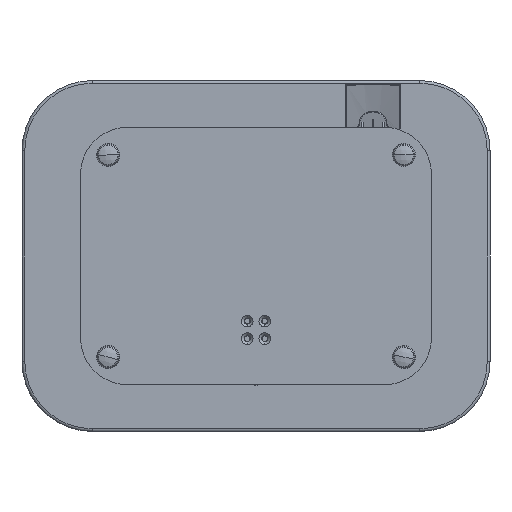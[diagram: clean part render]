
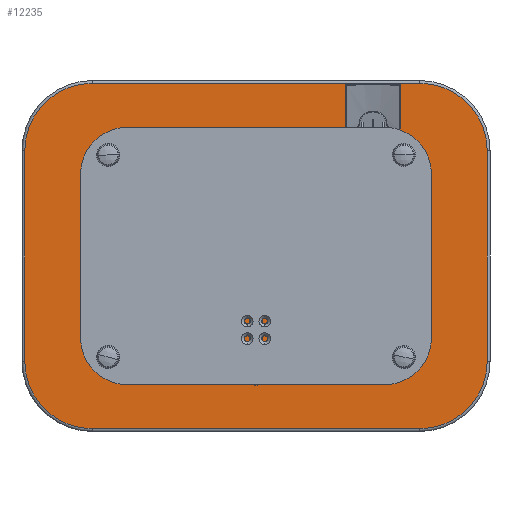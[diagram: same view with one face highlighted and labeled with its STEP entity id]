
A CAD part, front view. The second image highlights one B-rep face of the part: STEP entity #12235.
In plain terms, the highlighted planar face has unit normal (0, -1, 0).
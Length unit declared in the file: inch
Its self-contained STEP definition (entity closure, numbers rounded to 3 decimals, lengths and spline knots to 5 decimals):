
#41 = ORIENTED_EDGE ( 'NONE', *, *, #4150, .F. ) ;
#140 = DIRECTION ( 'NONE',  ( 1., 0., 0. ) ) ;
#161 = CARTESIAN_POINT ( 'NONE',  ( 7., 0., -7.38189 ) ) ;
#442 = VECTOR ( 'NONE', #8382, 39.37008 ) ;
#445 = CARTESIAN_POINT ( 'NONE',  ( 7., 0., 7.38189 ) ) ;
#694 = EDGE_CURVE ( 'NONE', #12762, #3987, #5023, .T. ) ;
#1089 = CARTESIAN_POINT ( 'NONE',  ( 7., 0., 4.5 ) ) ;
#1404 = LINE ( 'NONE', #5592, #2672 ) ;
#1485 = CIRCLE ( 'NONE', #9034, 2.88189 ) ;
#2027 = CARTESIAN_POINT ( 'NONE',  ( 7., 0., -7.38189 ) ) ;
#2336 = ORIENTED_EDGE ( 'NONE', *, *, #8761, .F. ) ;
#2396 = AXIS2_PLACEMENT_3D ( 'NONE', #9112, #11259, #4107 ) ;
#2672 = VECTOR ( 'NONE', #5529, 39.37008 ) ;
#2876 = CIRCLE ( 'NONE', #12131, 2.88189 ) ;
#2907 = LINE ( 'NONE', #2027, #9985 ) ;
#2946 = DIRECTION ( 'NONE',  ( 0., 0., 1. ) ) ;
#3125 = ORIENTED_EDGE ( 'NONE', *, *, #694, .F. ) ;
#3310 = DIRECTION ( 'NONE',  ( 0., 0., 1. ) ) ;
#3347 = EDGE_CURVE ( 'NONE', #12984, #7352, #11703, .T. ) ;
#3420 = CARTESIAN_POINT ( 'NONE',  ( -7., 0., 7.38189 ) ) ;
#3429 = EDGE_CURVE ( 'NONE', #4676, #5047, #2876, .T. ) ;
#3515 = ORIENTED_EDGE ( 'NONE', *, *, #5723, .F. ) ;
#3670 = CARTESIAN_POINT ( 'NONE',  ( -9.88189, 0., 4.5 ) ) ;
#3743 = AXIS2_PLACEMENT_3D ( 'NONE', #6830, #6018, #7912 ) ;
#3834 = DIRECTION ( 'NONE',  ( 0., 1., 0. ) ) ;
#3987 = VERTEX_POINT ( 'NONE', #9235 ) ;
#4052 = DIRECTION ( 'NONE',  ( 0., 1., 0. ) ) ;
#4107 = DIRECTION ( 'NONE',  ( 0., 0., -1. ) ) ;
#4150 = EDGE_CURVE ( 'NONE', #5047, #12984, #1404, .T. ) ;
#4188 = VECTOR ( 'NONE', #140, 39.37008 ) ;
#4676 = VERTEX_POINT ( 'NONE', #445 ) ;
#5005 = FACE_OUTER_BOUND ( 'NONE', #10795, .T. ) ;
#5023 = CIRCLE ( 'NONE', #11897, 2.88189 ) ;
#5047 = VERTEX_POINT ( 'NONE', #7560 ) ;
#5202 = PLANE ( 'NONE',  #2396 ) ;
#5529 = DIRECTION ( 'NONE',  ( 0., 0., -1. ) ) ;
#5592 = CARTESIAN_POINT ( 'NONE',  ( 9.88189, 0., 4.5 ) ) ;
#5723 = EDGE_CURVE ( 'NONE', #11214, #10447, #1485, .T. ) ;
#6018 = DIRECTION ( 'NONE',  ( 0., 1., 0. ) ) ;
#6027 = CARTESIAN_POINT ( 'NONE',  ( -9.88189, 0., -4.5 ) ) ;
#6374 = CARTESIAN_POINT ( 'NONE',  ( -9.88189, 0., -4.5 ) ) ;
#6830 = CARTESIAN_POINT ( 'NONE',  ( 7., 0., -4.5 ) ) ;
#7098 = LINE ( 'NONE', #6027, #442 ) ;
#7216 = DIRECTION ( 'NONE',  ( -1., 0., 0. ) ) ;
#7352 = VERTEX_POINT ( 'NONE', #161 ) ;
#7366 = CARTESIAN_POINT ( 'NONE',  ( 9.88189, 0., -4.5 ) ) ;
#7560 = CARTESIAN_POINT ( 'NONE',  ( 9.88189, 0., 4.5 ) ) ;
#7872 = CARTESIAN_POINT ( 'NONE',  ( -7., 0., 4.5 ) ) ;
#7912 = DIRECTION ( 'NONE',  ( 0., 0., 1. ) ) ;
#8287 = LINE ( 'NONE', #3420, #4188 ) ;
#8382 = DIRECTION ( 'NONE',  ( 0., 0., 1. ) ) ;
#8718 = ORIENTED_EDGE ( 'NONE', *, *, #11724, .F. ) ;
#8761 = EDGE_CURVE ( 'NONE', #7352, #11214, #2907, .T. ) ;
#9034 = AXIS2_PLACEMENT_3D ( 'NONE', #10981, #3834, #12122 ) ;
#9080 = DIRECTION ( 'NONE',  ( 0., 1., 0. ) ) ;
#9112 = CARTESIAN_POINT ( 'NONE',  ( 0., 0., 0. ) ) ;
#9235 = CARTESIAN_POINT ( 'NONE',  ( -7., 0., 7.38189 ) ) ;
#9852 = ORIENTED_EDGE ( 'NONE', *, *, #3347, .F. ) ;
#9985 = VECTOR ( 'NONE', #7216, 39.37008 ) ;
#10257 = EDGE_CURVE ( 'NONE', #3987, #4676, #8287, .T. ) ;
#10447 = VERTEX_POINT ( 'NONE', #6374 ) ;
#10795 = EDGE_LOOP ( 'NONE', ( #8718, #3515, #2336, #9852, #41, #12111, #11791, #3125 ) ) ;
#10981 = CARTESIAN_POINT ( 'NONE',  ( -7., 0., -4.5 ) ) ;
#11214 = VERTEX_POINT ( 'NONE', #12378 ) ;
#11259 = DIRECTION ( 'NONE',  ( 0., -1., 0. ) ) ;
#11703 = CIRCLE ( 'NONE', #3743, 2.88189 ) ;
#11724 = EDGE_CURVE ( 'NONE', #10447, #12762, #7098, .T. ) ;
#11791 = ORIENTED_EDGE ( 'NONE', *, *, #10257, .F. ) ;
#11897 = AXIS2_PLACEMENT_3D ( 'NONE', #7872, #9080, #2946 ) ;
#12111 = ORIENTED_EDGE ( 'NONE', *, *, #3429, .F. ) ;
#12122 = DIRECTION ( 'NONE',  ( 0., 0., 1. ) ) ;
#12131 = AXIS2_PLACEMENT_3D ( 'NONE', #1089, #4052, #3310 ) ;
#12235 = ADVANCED_FACE ( 'NONE', ( #5005 ), #5202, .T. ) ;
#12378 = CARTESIAN_POINT ( 'NONE',  ( -7., 0., -7.38189 ) ) ;
#12762 = VERTEX_POINT ( 'NONE', #3670 ) ;
#12984 = VERTEX_POINT ( 'NONE', #7366 ) ;
